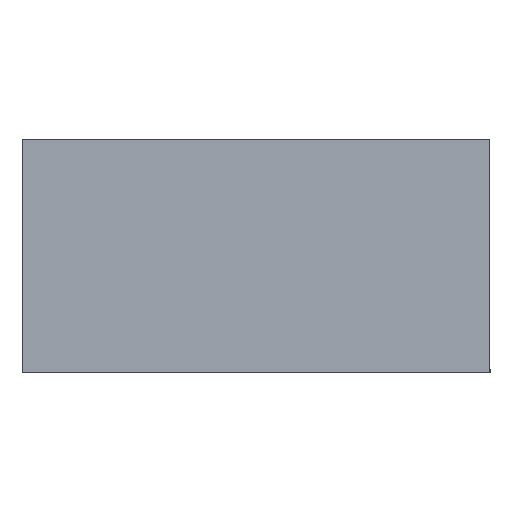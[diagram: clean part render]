
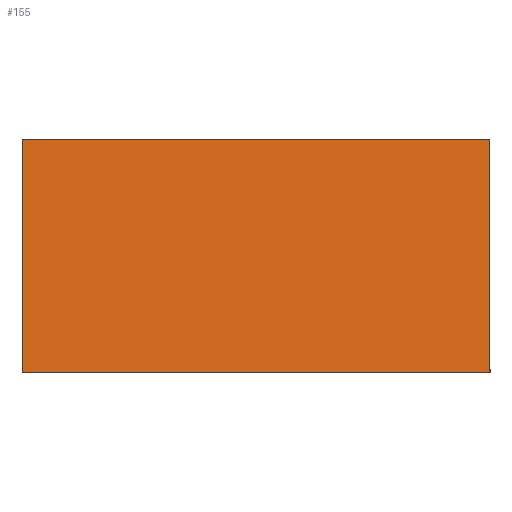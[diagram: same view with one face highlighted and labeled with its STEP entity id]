
A CAD part, left-side view. The second image highlights one B-rep face of the part: STEP entity #155.
In plain terms, the highlighted planar face has unit normal (-0.707, -0.707, 0).
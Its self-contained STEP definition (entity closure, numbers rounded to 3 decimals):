
#11 = VERTEX_POINT ( 'NONE', #309 ) ;
#20 = DIRECTION ( 'NONE',  ( -0.707, 0.707, 0. ) ) ;
#23 = VECTOR ( 'NONE', #65, 1000. ) ;
#30 = VECTOR ( 'NONE', #103, 1000. ) ;
#37 = CARTESIAN_POINT ( 'NONE',  ( -319.5, 24., 24. ) ) ;
#65 = DIRECTION ( 'NONE',  ( 0., 0., 1. ) ) ;
#79 = ORIENTED_EDGE ( 'NONE', *, *, #334, .T. ) ;
#103 = DIRECTION ( 'NONE',  ( -0.707, 0.707, 0. ) ) ;
#104 = ORIENTED_EDGE ( 'NONE', *, *, #364, .F. ) ;
#131 = DIRECTION ( 'NONE',  ( 0., 0., -1. ) ) ;
#155 = ADVANCED_FACE ( 'NONE', ( #349 ), #164, .F. ) ;
#156 = LINE ( 'NONE', #159, #30 ) ;
#157 = VERTEX_POINT ( 'NONE', #194 ) ;
#159 = CARTESIAN_POINT ( 'NONE',  ( -319.5, 24., 0. ) ) ;
#160 = ORIENTED_EDGE ( 'NONE', *, *, #304, .T. ) ;
#164 = PLANE ( 'NONE',  #303 ) ;
#179 = DIRECTION ( 'NONE',  ( -0.707, 0.707, 0. ) ) ;
#181 = VERTEX_POINT ( 'NONE', #263 ) ;
#194 = CARTESIAN_POINT ( 'NONE',  ( -319.5, 24., 0. ) ) ;
#214 = VECTOR ( 'NONE', #179, 1000. ) ;
#217 = ORIENTED_EDGE ( 'NONE', *, *, #312, .T. ) ;
#244 = VERTEX_POINT ( 'NONE', #357 ) ;
#263 = CARTESIAN_POINT ( 'NONE',  ( -319.5, 24., 24. ) ) ;
#265 = LINE ( 'NONE', #328, #23 ) ;
#284 = CARTESIAN_POINT ( 'NONE',  ( -319.5, 24., 0. ) ) ;
#298 = LINE ( 'NONE', #300, #310 ) ;
#300 = CARTESIAN_POINT ( 'NONE',  ( -319.5, 24., 24. ) ) ;
#303 = AXIS2_PLACEMENT_3D ( 'NONE', #284, #375, #20 ) ;
#304 = EDGE_CURVE ( 'NONE', #244, #11, #265, .T. ) ;
#309 = CARTESIAN_POINT ( 'NONE',  ( -271.5, -24., 24. ) ) ;
#310 = VECTOR ( 'NONE', #131, 1000. ) ;
#312 = EDGE_CURVE ( 'NONE', #181, #157, #298, .T. ) ;
#328 = CARTESIAN_POINT ( 'NONE',  ( -271.5, -24., 0. ) ) ;
#334 = EDGE_CURVE ( 'NONE', #11, #181, #361, .T. ) ;
#349 = FACE_OUTER_BOUND ( 'NONE', #363, .T. ) ;
#357 = CARTESIAN_POINT ( 'NONE',  ( -271.5, -24., 0. ) ) ;
#361 = LINE ( 'NONE', #37, #214 ) ;
#363 = EDGE_LOOP ( 'NONE', ( #79, #217, #104, #160 ) ) ;
#364 = EDGE_CURVE ( 'NONE', #244, #157, #156, .T. ) ;
#375 = DIRECTION ( 'NONE',  ( 0.707, 0.707, 0. ) ) ;
